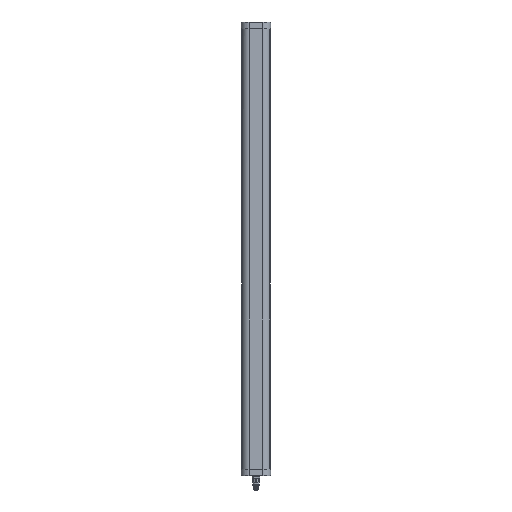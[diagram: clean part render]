
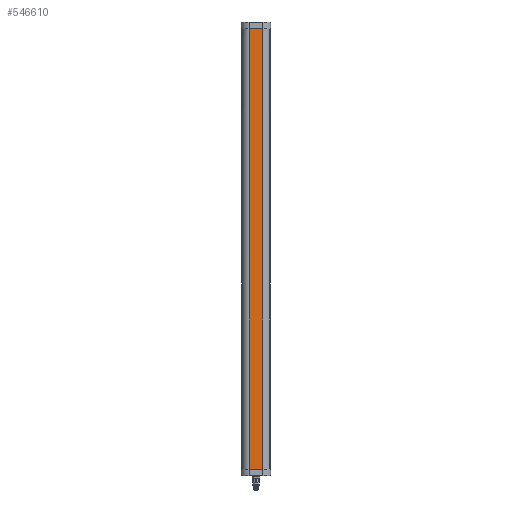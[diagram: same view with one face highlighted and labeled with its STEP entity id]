
A CAD part, front view. The second image highlights one B-rep face of the part: STEP entity #546610.
In plain terms, the highlighted planar face has unit normal (0, -1, 0) as drawn and (0, 1, 0) by its records, which use the part's own axes.
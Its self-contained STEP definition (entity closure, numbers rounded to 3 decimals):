
#491170=CARTESIAN_POINT('',(17.5,28.5,-612.3));
#491180=VERTEX_POINT('',#491170);
#491210=CARTESIAN_POINT('',(17.5,28.5,-612.3));
#491220=DIRECTION('',(-1.,0.,0.));
#491230=VECTOR('',#491220,1.);
#491240=LINE('',#491210,#491230);
#491250=CARTESIAN_POINT('',(-17.5,28.5,-612.3));
#491260=VERTEX_POINT('',#491250);
#491270=EDGE_CURVE('',#491180,#491260,#491240,.T.);
#508590=CARTESIAN_POINT('',(-17.5,28.5,-535.));
#508600=DIRECTION('',(0.,0.,1.));
#508610=VECTOR('',#508600,1.);
#508620=LINE('',#508590,#508610);
#508630=CARTESIAN_POINT('',(-17.5,28.5,585.));
#508640=VERTEX_POINT('',#508630);
#508650=EDGE_CURVE('',#491260,#508640,#508620,.T.);
#512360=CARTESIAN_POINT('',(17.5,28.5,585.));
#512370=VERTEX_POINT('',#512360);
#512400=CARTESIAN_POINT('',(17.5,28.5,585.));
#512410=DIRECTION('',(0.,0.,-1.));
#512420=VECTOR('',#512410,1.);
#512430=LINE('',#512400,#512420);
#512440=EDGE_CURVE('',#512370,#491180,#512430,.T.);
#516000=CARTESIAN_POINT('',(-17.5,28.5,585.));
#516010=DIRECTION('',(1.,0.,0.));
#516020=VECTOR('',#516010,1.);
#516030=LINE('',#516000,#516020);
#516040=EDGE_CURVE('',#508640,#512370,#516030,.T.);
#531410=CARTESIAN_POINT('',(-3.,28.5,580.));
#531420=DIRECTION('',(1.,0.,0.));
#531430=VECTOR('',#531420,1.);
#531440=LINE('',#531410,#531430);
#531450=CARTESIAN_POINT('',(-3.,28.5,580.));
#531460=VERTEX_POINT('',#531450);
#531470=CARTESIAN_POINT('',(3.,28.5,580.));
#531480=VERTEX_POINT('',#531470);
#531490=EDGE_CURVE('',#531460,#531480,#531440,.T.);
#546250=CARTESIAN_POINT('',(-17.5,28.5,-585.));
#546260=DIRECTION('',(0.,-1.,0.));
#546270=DIRECTION('',(0.,0.,-1.));
#546280=AXIS2_PLACEMENT_3D('',#546250,#546260,#546270);
#546290=PLANE('',#546280);
#546300=ORIENTED_EDGE('',*,*,#512440,.T.);
#546310=ORIENTED_EDGE('',*,*,#516040,.T.);
#546320=ORIENTED_EDGE('',*,*,#508650,.T.);
#546330=ORIENTED_EDGE('',*,*,#491270,.T.);
#546340=EDGE_LOOP('',(#546330,#546320,#546310,#546300));
#546350=FACE_OUTER_BOUND('',#546340,.T.);
#546360=CARTESIAN_POINT('',(3.,28.5,580.));
#546370=DIRECTION('',(0.,0.,1.));
#546380=VECTOR('',#546370,1.);
#546390=LINE('',#546360,#546380);
#546400=CARTESIAN_POINT('',(3.,28.5,583.));
#546410=VERTEX_POINT('',#546400);
#546420=EDGE_CURVE('',#531480,#546410,#546390,.T.);
#546430=ORIENTED_EDGE('',*,*,#546420,.T.);
#546440=ORIENTED_EDGE('',*,*,#531490,.T.);
#546450=CARTESIAN_POINT('',(-3.,28.5,583.));
#546460=DIRECTION('',(0.,0.,-1.));
#546470=VECTOR('',#546460,1.);
#546480=LINE('',#546450,#546470);
#546490=CARTESIAN_POINT('',(-3.,28.5,583.));
#546500=VERTEX_POINT('',#546490);
#546510=EDGE_CURVE('',#546500,#531460,#546480,.T.);
#546520=ORIENTED_EDGE('',*,*,#546510,.T.);
#546530=CARTESIAN_POINT('',(3.,28.5,583.));
#546540=DIRECTION('',(-1.,0.,0.));
#546550=VECTOR('',#546540,1.);
#546560=LINE('',#546530,#546550);
#546570=EDGE_CURVE('',#546410,#546500,#546560,.T.);
#546580=ORIENTED_EDGE('',*,*,#546570,.T.);
#546590=EDGE_LOOP('',(#546580,#546520,#546440,#546430));
#546600=FACE_BOUND('',#546590,.T.);
#546610=ADVANCED_FACE('',(#546350,#546600),#546290,.F.);
